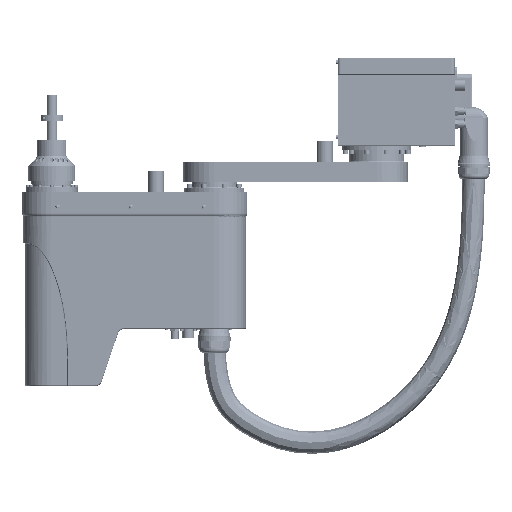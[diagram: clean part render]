
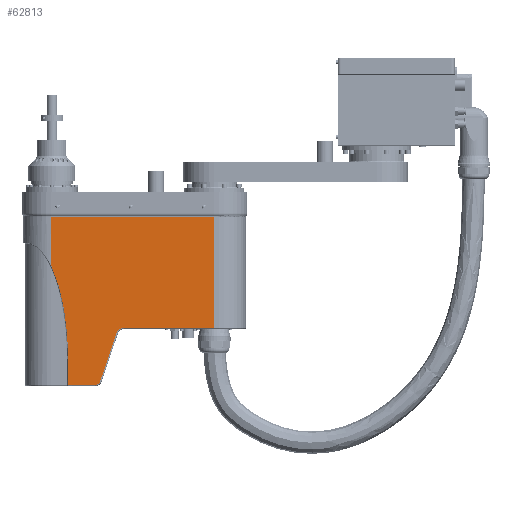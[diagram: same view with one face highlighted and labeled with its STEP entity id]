
A CAD part, front view. The second image highlights one B-rep face of the part: STEP entity #62813.
In plain terms, the highlighted planar face has unit normal (-0.02, -1, 0).
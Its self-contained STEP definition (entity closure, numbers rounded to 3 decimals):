
#4880 = CARTESIAN_POINT ( 'NONE',  ( -523.88, -43.991, -532.5 ) ) ;
#5327 = CARTESIAN_POINT ( 'NONE',  ( -448.624, -45.497, -527.081 ) ) ;
#8054 = CARTESIAN_POINT ( 'NONE',  ( -521.273, -44.043, -355.098 ) ) ;
#8713 = CARTESIAN_POINT ( 'NONE',  ( -522.528, -44.018, -352.253 ) ) ;
#11109 = AXIS2_PLACEMENT_3D ( 'NONE', #74902, #45200, #14844 ) ;
#11322 = CARTESIAN_POINT ( 'NONE',  ( -504.511, -44.379, -414.364 ) ) ;
#11873 = LINE ( 'NONE', #4880, #115893 ) ;
#12003 = ORIENTED_EDGE ( 'NONE', *, *, #111199, .F. ) ;
#12159 = VECTOR ( 'NONE', #169052, 1000. ) ;
#12592 = CARTESIAN_POINT ( 'NONE',  ( -499.718, -44.475, -451.218 ) ) ;
#13239 = CARTESIAN_POINT ( 'NONE',  ( -497.885, -44.511, -482.095 ) ) ;
#14844 = DIRECTION ( 'NONE',  ( -1., 0.02, 0. ) ) ;
#15920 = LINE ( 'NONE', #188522, #58295 ) ;
#23934 = CARTESIAN_POINT ( 'NONE',  ( -509.621, -44.276, -390.207 ) ) ;
#24934 = DIRECTION ( 'NONE',  ( 0.323, -0.006, 0.946 ) ) ;
#25497 = CARTESIAN_POINT ( 'NONE',  ( -452.651, -45.416, -532.5 ) ) ;
#26796 = FACE_OUTER_BOUND ( 'NONE', #60875, .T. ) ;
#29661 = LINE ( 'NONE', #40640, #65069 ) ;
#33901 = EDGE_CURVE ( 'NONE', #132201, #165653, #67895, .T. ) ;
#37237 = CARTESIAN_POINT ( 'NONE',  ( -411.884, -46.232, -444.5 ) ) ;
#39963 = CARTESIAN_POINT ( 'NONE',  ( -456.196, -45.345, -532.5 ) ) ;
#40640 = CARTESIAN_POINT ( 'NONE',  ( -273.98, -48.99, -444.5 ) ) ;
#42301 = CARTESIAN_POINT ( 'NONE',  ( -502.588, -44.417, -426.62 ) ) ;
#42378 = CARTESIAN_POINT ( 'NONE',  ( -497.885, -44.511, -494.5 ) ) ;
#42409 = DIRECTION ( 'NONE',  ( 0., 0., 1. ) ) ;
#45200 = DIRECTION ( 'NONE',  ( -0.02, -1., 0. ) ) ;
#47916 = VECTOR ( 'NONE', #158362, 1000. ) ;
#48010 = VERTEX_POINT ( 'NONE', #70913 ) ;
#49527 = EDGE_CURVE ( 'NONE', #77432, #94429, #117979, .T. ) ;
#55915 = LINE ( 'NONE', #164126, #110350 ) ;
#56438 = CARTESIAN_POINT ( 'NONE',  ( -448.624, -45.497, -527.081 ) ) ;
#58102 = CARTESIAN_POINT ( 'NONE',  ( -501.747, -44.434, -432.76 ) ) ;
#58281 = CARTESIAN_POINT ( 'NONE',  ( -273.98, -48.99, -273.792 ) ) ;
#58295 = VECTOR ( 'NONE', #24934, 1000. ) ;
#59683 = VECTOR ( 'NONE', #42409, 1000. ) ;
#60387 = ORIENTED_EDGE ( 'NONE', *, *, #95939, .T. ) ;
#60875 = EDGE_LOOP ( 'NONE', ( #60387, #173152, #12003, #191767, #64710, #149260, #102514, #145879, #86670, #136675 ) ) ;
#62076 = LINE ( 'NONE', #175534, #47916 ) ;
#62813 = ADVANCED_FACE ( 'NONE', ( #26796 ), #104651, .T. ) ;
#64710 = ORIENTED_EDGE ( 'NONE', *, *, #76566, .T. ) ;
#65069 = VECTOR ( 'NONE', #85556, 1000. ) ;
#67455 = VERTEX_POINT ( 'NONE', #58281 ) ;
#67895 = B_SPLINE_CURVE_WITH_KNOTS ( 'NONE', 3,
 ( #190743, #8713, #8054, #114341, #144001, #68796, #174330, #23934, #179486, #161684, #11322, #116929, #42301, #58102, #162322, #192033, #12592, #193335, #13239, #147825 ),
 .UNSPECIFIED., .F., .F.,
 ( 4, 2, 2, 2, 2, 2, 2, 2, 2, 4 ),
 ( 0., 0.009, 0.018, 0.037, 0.055, 0.074, 0.083, 0.092, 0.111, 0.148 ),
 .UNSPECIFIED. ) ;
#68796 = CARTESIAN_POINT ( 'NONE',  ( -514.701, -44.175, -372.441 ) ) ;
#69867 = EDGE_CURVE ( 'NONE', #75547, #77432, #15920, .T. ) ;
#70913 = CARTESIAN_POINT ( 'NONE',  ( -456.196, -45.345, -532.5 ) ) ;
#74902 = CARTESIAN_POINT ( 'NONE',  ( -523.88, -43.991, -534.5 ) ) ;
#75547 = VERTEX_POINT ( 'NONE', #5327 ) ;
#76566 = EDGE_CURVE ( 'NONE', #165653, #93469, #55915, .T. ) ;
#77432 = VERTEX_POINT ( 'NONE', #107047 ) ;
#80981 = EDGE_CURVE ( 'NONE', #48010, #75547, #121331, .T. ) ;
#81470 = CARTESIAN_POINT ( 'NONE',  ( -417.202, -46.125, -444.5 ) ) ;
#85556 = DIRECTION ( 'NONE',  ( 1., -0.02, 0. ) ) ;
#86670 = ORIENTED_EDGE ( 'NONE', *, *, #49527, .T. ) ;
#93469 = VERTEX_POINT ( 'NONE', #121782 ) ;
#94429 = VERTEX_POINT ( 'NONE', #132905 ) ;
#95939 = EDGE_CURVE ( 'NONE', #141699, #67455, #165643, .T. ) ;
#102514 = ORIENTED_EDGE ( 'NONE', *, *, #80981, .T. ) ;
#104080 = EDGE_CURVE ( 'NONE', #94429, #141699, #29661, .T. ) ;
#104651 = PLANE ( 'NONE',  #11109 ) ;
#107047 = CARTESIAN_POINT ( 'NONE',  ( -423.242, -46.004, -452.628 ) ) ;
#108471 = CARTESIAN_POINT ( 'NONE',  ( -273.98, -48.99, -534.5 ) ) ;
#110350 = VECTOR ( 'NONE', #163481, 1000. ) ;
#111199 = EDGE_CURVE ( 'NONE', #132201, #142436, #135283, .T. ) ;
#114341 = CARTESIAN_POINT ( 'NONE',  ( -518.915, -44.091, -360.832 ) ) ;
#115893 = VECTOR ( 'NONE', #186863, 1000. ) ;
#116929 = CARTESIAN_POINT ( 'NONE',  ( -503.042, -44.408, -423.55 ) ) ;
#117979 =( BOUNDED_CURVE ( )  B_SPLINE_CURVE ( 3, ( #185636, #142828, #81470, #37237 ),
 .UNSPECIFIED., .F., .F. ) 
 B_SPLINE_CURVE_WITH_KNOTS ( ( 4, 4 ),
 ( 0.329, 1.571 ),
 .UNSPECIFIED. ) 
 CURVE ( )  GEOMETRIC_REPRESENTATION_ITEM ( )  RATIONAL_B_SPLINE_CURVE ( ( 1., 0.875, 0.875, 1. ) ) 
 REPRESENTATION_ITEM ( '' )  );
#121331 =( BOUNDED_CURVE ( )  B_SPLINE_CURVE ( 3, ( #39963, #25497, #130419, #56438 ),
 .UNSPECIFIED., .F., .F. ) 
 B_SPLINE_CURVE_WITH_KNOTS ( ( 4, 4 ),
 ( 4.712, 5.955 ),
 .UNSPECIFIED. ) 
 CURVE ( )  GEOMETRIC_REPRESENTATION_ITEM ( )  RATIONAL_B_SPLINE_CURVE ( ( 1., 0.875, 0.875, 1. ) ) 
 REPRESENTATION_ITEM ( '' )  );
#121782 = CARTESIAN_POINT ( 'NONE',  ( -497.885, -44.511, -532.5 ) ) ;
#130419 = CARTESIAN_POINT ( 'NONE',  ( -449.768, -45.474, -530.437 ) ) ;
#132201 = VERTEX_POINT ( 'NONE', #187932 ) ;
#132905 = CARTESIAN_POINT ( 'NONE',  ( -411.884, -46.232, -444.5 ) ) ;
#135283 = LINE ( 'NONE', #147923, #59683 ) ;
#136675 = ORIENTED_EDGE ( 'NONE', *, *, #104080, .T. ) ;
#141699 = VERTEX_POINT ( 'NONE', #162487 ) ;
#142436 = VERTEX_POINT ( 'NONE', #173133 ) ;
#142828 = CARTESIAN_POINT ( 'NONE',  ( -421.526, -46.039, -447.595 ) ) ;
#144001 = CARTESIAN_POINT ( 'NONE',  ( -517.814, -44.113, -363.721 ) ) ;
#145879 = ORIENTED_EDGE ( 'NONE', *, *, #69867, .T. ) ;
#147825 = CARTESIAN_POINT ( 'NONE',  ( -497.885, -44.511, -494.5 ) ) ;
#147923 = CARTESIAN_POINT ( 'NONE',  ( -523.88, -43.991, -534.5 ) ) ;
#149260 = ORIENTED_EDGE ( 'NONE', *, *, #160078, .T. ) ;
#158148 = EDGE_CURVE ( 'NONE', #67455, #142436, #62076, .T. ) ;
#158362 = DIRECTION ( 'NONE',  ( -1., 0.02, 0. ) ) ;
#160078 = EDGE_CURVE ( 'NONE', #93469, #48010, #11873, .T. ) ;
#161684 = CARTESIAN_POINT ( 'NONE',  ( -505.63, -44.356, -408.28 ) ) ;
#162322 = CARTESIAN_POINT ( 'NONE',  ( -501.361, -44.442, -435.833 ) ) ;
#162487 = CARTESIAN_POINT ( 'NONE',  ( -273.98, -48.99, -444.5 ) ) ;
#163481 = DIRECTION ( 'NONE',  ( 0., 0., -1. ) ) ;
#164126 = CARTESIAN_POINT ( 'NONE',  ( -497.885, -44.511, -532.5 ) ) ;
#165643 = LINE ( 'NONE', #108471, #12159 ) ;
#165653 = VERTEX_POINT ( 'NONE', #42378 ) ;
#169052 = DIRECTION ( 'NONE',  ( 0., 0., 1. ) ) ;
#173133 = CARTESIAN_POINT ( 'NONE',  ( -523.88, -43.991, -273.792 ) ) ;
#173152 = ORIENTED_EDGE ( 'NONE', *, *, #158148, .T. ) ;
#174330 = CARTESIAN_POINT ( 'NONE',  ( -512.88, -44.211, -378.327 ) ) ;
#175534 = CARTESIAN_POINT ( 'NONE',  ( -523.88, -43.991, -273.792 ) ) ;
#179486 = CARTESIAN_POINT ( 'NONE',  ( -508.185, -44.305, -396.201 ) ) ;
#185636 = CARTESIAN_POINT ( 'NONE',  ( -423.242, -46.004, -452.628 ) ) ;
#186863 = DIRECTION ( 'NONE',  ( 1., -0.02, 0. ) ) ;
#187932 = CARTESIAN_POINT ( 'NONE',  ( -523.88, -43.991, -349.435 ) ) ;
#188522 = CARTESIAN_POINT ( 'NONE',  ( -423.238, -46.004, -452.615 ) ) ;
#190743 = CARTESIAN_POINT ( 'NONE',  ( -523.88, -43.991, -349.435 ) ) ;
#191767 = ORIENTED_EDGE ( 'NONE', *, *, #33901, .T. ) ;
#192033 = CARTESIAN_POINT ( 'NONE',  ( -500.298, -44.463, -445.058 ) ) ;
#193335 = CARTESIAN_POINT ( 'NONE',  ( -498.335, -44.502, -469.723 ) ) ;
